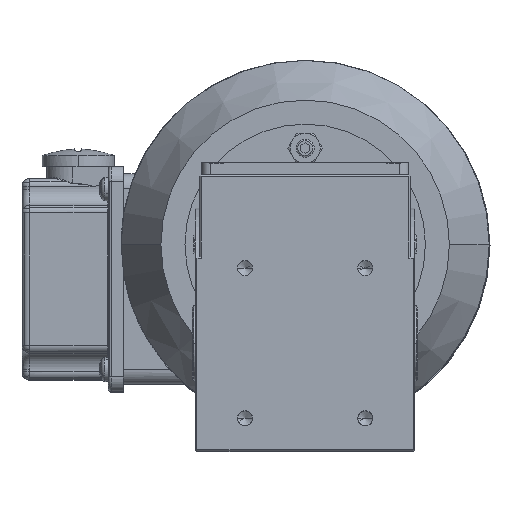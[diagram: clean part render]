
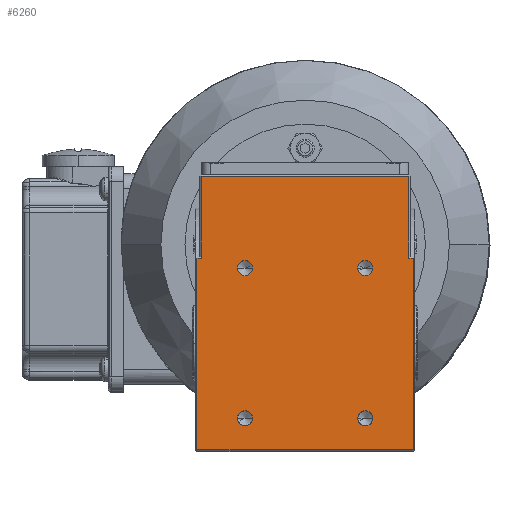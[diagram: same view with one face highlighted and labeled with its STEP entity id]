
A CAD part, top view. The second image highlights one B-rep face of the part: STEP entity #6260.
In plain terms, the highlighted planar face has unit normal (0, 0, 1).
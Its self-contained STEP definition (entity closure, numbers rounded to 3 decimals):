
#128 = ORIENTED_EDGE ( 'NONE', *, *, #3329, .F. ) ;
#131 = VECTOR ( 'NONE', #21004, 1000. ) ;
#408 = VERTEX_POINT ( 'NONE', #22248 ) ;
#584 = DIRECTION ( 'NONE',  ( 0., 0., 1. ) ) ;
#602 = VERTEX_POINT ( 'NONE', #12456 ) ;
#693 = DIRECTION ( 'NONE',  ( 1., 0., 0. ) ) ;
#1227 = VECTOR ( 'NONE', #5778, 1000. ) ;
#1691 = DIRECTION ( 'NONE',  ( 0., 0., 1. ) ) ;
#1945 = VERTEX_POINT ( 'NONE', #2138 ) ;
#2043 = EDGE_CURVE ( 'NONE', #23008, #4528, #6833, .T. ) ;
#2138 = CARTESIAN_POINT ( 'NONE',  ( -22.5, -25., 35. ) ) ;
#2660 = ORIENTED_EDGE ( 'NONE', *, *, #7213, .T. ) ;
#2888 = EDGE_CURVE ( 'NONE', #6660, #1945, #23989, .T. ) ;
#3068 = EDGE_CURVE ( 'NONE', #22346, #23008, #23118, .T. ) ;
#3114 = DIRECTION ( 'NONE',  ( 1., 0., 0. ) ) ;
#3329 = EDGE_CURVE ( 'NONE', #12315, #22173, #20308, .T. ) ;
#3397 = DIRECTION ( 'NONE',  ( 0., 0., 1. ) ) ;
#4403 = DIRECTION ( 'NONE',  ( 0., 0., 1. ) ) ;
#4476 = ORIENTED_EDGE ( 'NONE', *, *, #19635, .T. ) ;
#4528 = VERTEX_POINT ( 'NONE', #19744 ) ;
#4583 = DIRECTION ( 'NONE',  ( -1., 0., 0. ) ) ;
#4797 = DIRECTION ( 'NONE',  ( 1., 0., 0. ) ) ;
#4917 = CARTESIAN_POINT ( 'NONE',  ( -35., 28.284, 35. ) ) ;
#4942 = CARTESIAN_POINT ( 'NONE',  ( 20., 25., 35. ) ) ;
#5280 = ORIENTED_EDGE ( 'NONE', *, *, #5532, .F. ) ;
#5308 = EDGE_LOOP ( 'NONE', ( #7817, #10866 ) ) ;
#5430 = DIRECTION ( 'NONE',  ( 1., 0., 0. ) ) ;
#5532 = EDGE_CURVE ( 'NONE', #23176, #7262, #12349, .T. ) ;
#5778 = DIRECTION ( 'NONE',  ( -1., 0., 0. ) ) ;
#5885 = LINE ( 'NONE', #9457, #20647 ) ;
#6170 = LINE ( 'NONE', #17212, #15730 ) ;
#6260 = ADVANCED_FACE ( 'NONE', ( #18470, #13033, #24183, #9070, #14895 ), #16615, .F. ) ;
#6401 = DIRECTION ( 'NONE',  ( 0., 0., 1. ) ) ;
#6407 = ORIENTED_EDGE ( 'NONE', *, *, #14160, .F. ) ;
#6603 = CARTESIAN_POINT ( 'NONE',  ( 36., 28.284, 35. ) ) ;
#6631 = EDGE_LOOP ( 'NONE', ( #6407, #23072 ) ) ;
#6660 = VERTEX_POINT ( 'NONE', #24542 ) ;
#6833 = LINE ( 'NONE', #21814, #15961 ) ;
#6991 = VECTOR ( 'NONE', #13803, 1000. ) ;
#7144 = CARTESIAN_POINT ( 'NONE',  ( -20., -25., 35. ) ) ;
#7210 = CARTESIAN_POINT ( 'NONE',  ( -42.5, 56., 35. ) ) ;
#7213 = EDGE_CURVE ( 'NONE', #16709, #7448, #10069, .T. ) ;
#7262 = VERTEX_POINT ( 'NONE', #17731 ) ;
#7448 = VERTEX_POINT ( 'NONE', #6603 ) ;
#7449 = CARTESIAN_POINT ( 'NONE',  ( -17.5, 25., 35. ) ) ;
#7542 = CARTESIAN_POINT ( 'NONE',  ( -36., 28.284, 35. ) ) ;
#7817 = ORIENTED_EDGE ( 'NONE', *, *, #2888, .F. ) ;
#8255 = EDGE_CURVE ( 'NONE', #14380, #13032, #22137, .T. ) ;
#8385 = DIRECTION ( 'NONE',  ( 1., 0., 0. ) ) ;
#8685 = LINE ( 'NONE', #15861, #17639 ) ;
#8988 = CARTESIAN_POINT ( 'NONE',  ( 36., -35.5, 35. ) ) ;
#9070 = FACE_BOUND ( 'NONE', #5308, .T. ) ;
#9368 = AXIS2_PLACEMENT_3D ( 'NONE', #7210, #20570, #14757 ) ;
#9402 = CARTESIAN_POINT ( 'NONE',  ( 34.5, 56., 35. ) ) ;
#9457 = CARTESIAN_POINT ( 'NONE',  ( -42.5, -35.5, 35. ) ) ;
#9656 = AXIS2_PLACEMENT_3D ( 'NONE', #18381, #3397, #3114 ) ;
#10069 = LINE ( 'NONE', #19249, #6991 ) ;
#10215 = DIRECTION ( 'NONE',  ( 1., 0., 0. ) ) ;
#10242 = AXIS2_PLACEMENT_3D ( 'NONE', #22915, #584, #10215 ) ;
#10318 = ORIENTED_EDGE ( 'NONE', *, *, #2043, .T. ) ;
#10597 = DIRECTION ( 'NONE',  ( 1., 0., 0. ) ) ;
#10866 = ORIENTED_EDGE ( 'NONE', *, *, #13429, .F. ) ;
#10940 = AXIS2_PLACEMENT_3D ( 'NONE', #21640, #4403, #693 ) ;
#10980 = CARTESIAN_POINT ( 'NONE',  ( -20., 25., 35. ) ) ;
#11464 = LINE ( 'NONE', #15178, #1227 ) ;
#11576 = CIRCLE ( 'NONE', #23845, 2.5 ) ;
#12315 = VERTEX_POINT ( 'NONE', #24259 ) ;
#12349 = LINE ( 'NONE', #4917, #19181 ) ;
#12456 = CARTESIAN_POINT ( 'NONE',  ( 22.5, 25., 35. ) ) ;
#12574 = ORIENTED_EDGE ( 'NONE', *, *, #14279, .F. ) ;
#12583 = CARTESIAN_POINT ( 'NONE',  ( -22.5, 25., 35. ) ) ;
#12619 = CIRCLE ( 'NONE', #13425, 2.5 ) ;
#13032 = VERTEX_POINT ( 'NONE', #7449 ) ;
#13033 = FACE_BOUND ( 'NONE', #23609, .T. ) ;
#13034 = ORIENTED_EDGE ( 'NONE', *, *, #16420, .F. ) ;
#13104 = EDGE_CURVE ( 'NONE', #4528, #7262, #6170, .T. ) ;
#13171 = AXIS2_PLACEMENT_3D ( 'NONE', #13456, #24168, #22986 ) ;
#13425 = AXIS2_PLACEMENT_3D ( 'NONE', #7144, #1691, #17052 ) ;
#13429 = EDGE_CURVE ( 'NONE', #1945, #6660, #12619, .T. ) ;
#13456 = CARTESIAN_POINT ( 'NONE',  ( 20., -25., 35. ) ) ;
#13803 = DIRECTION ( 'NONE',  ( 0., 1., 0. ) ) ;
#14160 = EDGE_CURVE ( 'NONE', #13032, #14380, #21328, .T. ) ;
#14279 = EDGE_CURVE ( 'NONE', #23638, #602, #14628, .T. ) ;
#14337 = CIRCLE ( 'NONE', #13171, 2.5 ) ;
#14380 = VERTEX_POINT ( 'NONE', #12583 ) ;
#14628 = CIRCLE ( 'NONE', #24131, 2.5 ) ;
#14757 = DIRECTION ( 'NONE',  ( 0., 1., 0. ) ) ;
#14895 = FACE_OUTER_BOUND ( 'NONE', #22044, .T. ) ;
#15048 = EDGE_CURVE ( 'NONE', #23176, #408, #8685, .T. ) ;
#15178 = CARTESIAN_POINT ( 'NONE',  ( 35., 28.284, 35. ) ) ;
#15566 = CARTESIAN_POINT ( 'NONE',  ( 17.5, 25., 35. ) ) ;
#15730 = VECTOR ( 'NONE', #23150, 1000. ) ;
#15792 = CARTESIAN_POINT ( 'NONE',  ( 20., 25., 35. ) ) ;
#15861 = CARTESIAN_POINT ( 'NONE',  ( -36., 56., 35. ) ) ;
#15961 = VECTOR ( 'NONE', #4583, 1000. ) ;
#16148 = AXIS2_PLACEMENT_3D ( 'NONE', #10980, #22419, #5430 ) ;
#16173 = ORIENTED_EDGE ( 'NONE', *, *, #19394, .T. ) ;
#16233 = CARTESIAN_POINT ( 'NONE',  ( 34.5, 28.284, 35. ) ) ;
#16324 = EDGE_CURVE ( 'NONE', #602, #23638, #11576, .T. ) ;
#16420 = EDGE_CURVE ( 'NONE', #22173, #12315, #14337, .T. ) ;
#16472 = DIRECTION ( 'NONE',  ( 0., 0., 1. ) ) ;
#16615 = PLANE ( 'NONE',  #9368 ) ;
#16709 = VERTEX_POINT ( 'NONE', #8988 ) ;
#17052 = DIRECTION ( 'NONE',  ( 1., 0., 0. ) ) ;
#17212 = CARTESIAN_POINT ( 'NONE',  ( -34.5, 56., 35. ) ) ;
#17639 = VECTOR ( 'NONE', #20066, 1000. ) ;
#17731 = CARTESIAN_POINT ( 'NONE',  ( -34.5, 28.284, 35. ) ) ;
#18381 = CARTESIAN_POINT ( 'NONE',  ( 20., -25., 35. ) ) ;
#18470 = FACE_BOUND ( 'NONE', #6631, .T. ) ;
#18735 = DIRECTION ( 'NONE',  ( 1., 0., 0. ) ) ;
#18893 = CARTESIAN_POINT ( 'NONE',  ( 17.5, -25., 35. ) ) ;
#19181 = VECTOR ( 'NONE', #10597, 1000. ) ;
#19249 = CARTESIAN_POINT ( 'NONE',  ( 36., 56., 35. ) ) ;
#19394 = EDGE_CURVE ( 'NONE', #7448, #22346, #11464, .T. ) ;
#19635 = EDGE_CURVE ( 'NONE', #408, #16709, #5885, .T. ) ;
#19744 = CARTESIAN_POINT ( 'NONE',  ( -34.5, 55.5, 35. ) ) ;
#19881 = CARTESIAN_POINT ( 'NONE',  ( 34.5, 55.5, 35. ) ) ;
#20066 = DIRECTION ( 'NONE',  ( 0., -1., 0. ) ) ;
#20197 = ORIENTED_EDGE ( 'NONE', *, *, #3068, .T. ) ;
#20308 = CIRCLE ( 'NONE', #9656, 2.5 ) ;
#20570 = DIRECTION ( 'NONE',  ( 0., 0., -1. ) ) ;
#20647 = VECTOR ( 'NONE', #18735, 1000. ) ;
#20719 = ORIENTED_EDGE ( 'NONE', *, *, #13104, .T. ) ;
#21004 = DIRECTION ( 'NONE',  ( 0., 1., 0. ) ) ;
#21328 = CIRCLE ( 'NONE', #10242, 2.5 ) ;
#21640 = CARTESIAN_POINT ( 'NONE',  ( -20., -25., 35. ) ) ;
#21741 = EDGE_LOOP ( 'NONE', ( #128, #13034 ) ) ;
#21814 = CARTESIAN_POINT ( 'NONE',  ( -42.5, 55.5, 35. ) ) ;
#22044 = EDGE_LOOP ( 'NONE', ( #5280, #23005, #4476, #2660, #16173, #20197, #10318, #20719 ) ) ;
#22137 = CIRCLE ( 'NONE', #16148, 2.5 ) ;
#22173 = VERTEX_POINT ( 'NONE', #18893 ) ;
#22248 = CARTESIAN_POINT ( 'NONE',  ( -36., -35.5, 35. ) ) ;
#22317 = ORIENTED_EDGE ( 'NONE', *, *, #16324, .F. ) ;
#22346 = VERTEX_POINT ( 'NONE', #16233 ) ;
#22419 = DIRECTION ( 'NONE',  ( 0., 0., 1. ) ) ;
#22915 = CARTESIAN_POINT ( 'NONE',  ( -20., 25., 35. ) ) ;
#22986 = DIRECTION ( 'NONE',  ( 1., 0., 0. ) ) ;
#23005 = ORIENTED_EDGE ( 'NONE', *, *, #15048, .T. ) ;
#23008 = VERTEX_POINT ( 'NONE', #19881 ) ;
#23072 = ORIENTED_EDGE ( 'NONE', *, *, #8255, .F. ) ;
#23118 = LINE ( 'NONE', #9402, #131 ) ;
#23150 = DIRECTION ( 'NONE',  ( 0., -1., 0. ) ) ;
#23176 = VERTEX_POINT ( 'NONE', #7542 ) ;
#23609 = EDGE_LOOP ( 'NONE', ( #22317, #12574 ) ) ;
#23638 = VERTEX_POINT ( 'NONE', #15566 ) ;
#23845 = AXIS2_PLACEMENT_3D ( 'NONE', #4942, #16472, #4797 ) ;
#23989 = CIRCLE ( 'NONE', #10940, 2.5 ) ;
#24131 = AXIS2_PLACEMENT_3D ( 'NONE', #15792, #6401, #8385 ) ;
#24168 = DIRECTION ( 'NONE',  ( 0., 0., 1. ) ) ;
#24183 = FACE_BOUND ( 'NONE', #21741, .T. ) ;
#24259 = CARTESIAN_POINT ( 'NONE',  ( 22.5, -25., 35. ) ) ;
#24542 = CARTESIAN_POINT ( 'NONE',  ( -17.5, -25., 35. ) ) ;
